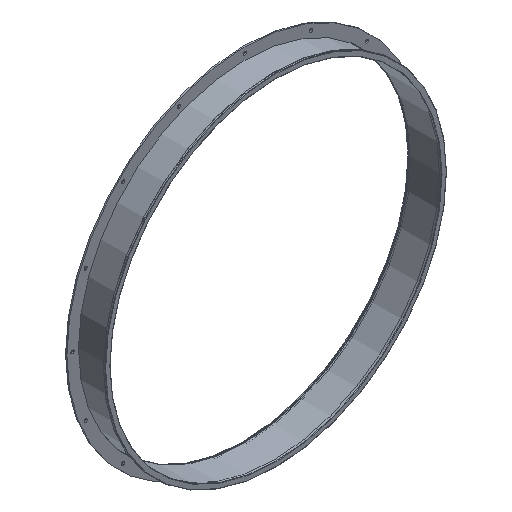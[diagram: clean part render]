
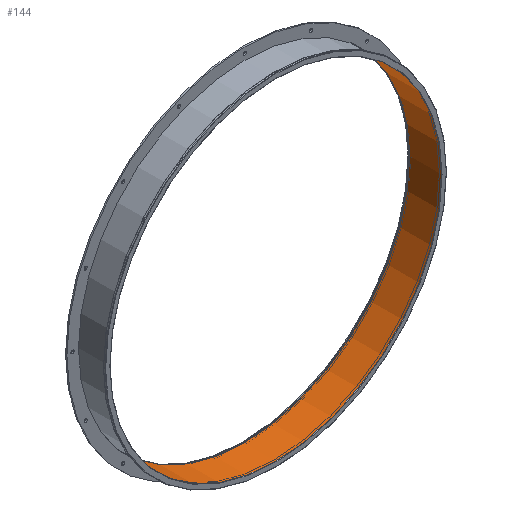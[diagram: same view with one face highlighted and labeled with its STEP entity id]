
A CAD part, isometric view. The second image highlights one B-rep face of the part: STEP entity #144.
In plain terms, the highlighted cylindrical face has radius 500 mm (diameter 1000 mm), a full revolution.
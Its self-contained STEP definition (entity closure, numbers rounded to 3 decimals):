
#107=CYLINDRICAL_SURFACE('',#699,500.);
#144=ADVANCED_FACE('',(#189,#190),#107,.F.);
#189=FACE_BOUND('',#301,.T.);
#190=FACE_BOUND('',#302,.T.);
#301=EDGE_LOOP('',(#413));
#302=EDGE_LOOP('',(#414));
#413=ORIENTED_EDGE('',*,*,#580,.T.);
#414=ORIENTED_EDGE('',*,*,#581,.T.);
#524=VERTEX_POINT('',#996);
#525=VERTEX_POINT('',#998);
#580=EDGE_CURVE('',#524,#524,#636,.T.);
#581=EDGE_CURVE('',#525,#525,#637,.T.);
#636=CIRCLE('',#697,500.);
#637=CIRCLE('',#698,500.);
#697=AXIS2_PLACEMENT_3D('',#995,#806,#807);
#698=AXIS2_PLACEMENT_3D('',#997,#808,#809);
#699=AXIS2_PLACEMENT_3D('',#999,#810,#811);
#806=DIRECTION('',(0.,-1.,0.));
#807=DIRECTION('',(-1.,0.,0.));
#808=DIRECTION('',(0.,1.,0.));
#809=DIRECTION('',(1.,0.,0.));
#810=DIRECTION('',(0.,1.,0.));
#811=DIRECTION('',(1.,0.,0.));
#995=CARTESIAN_POINT('',(0.,1.,0.));
#996=CARTESIAN_POINT('',(-500.,1.,0.));
#997=CARTESIAN_POINT('',(0.,99.,0.));
#998=CARTESIAN_POINT('',(500.,99.,0.));
#999=CARTESIAN_POINT('',(0.,-192.076,0.));
